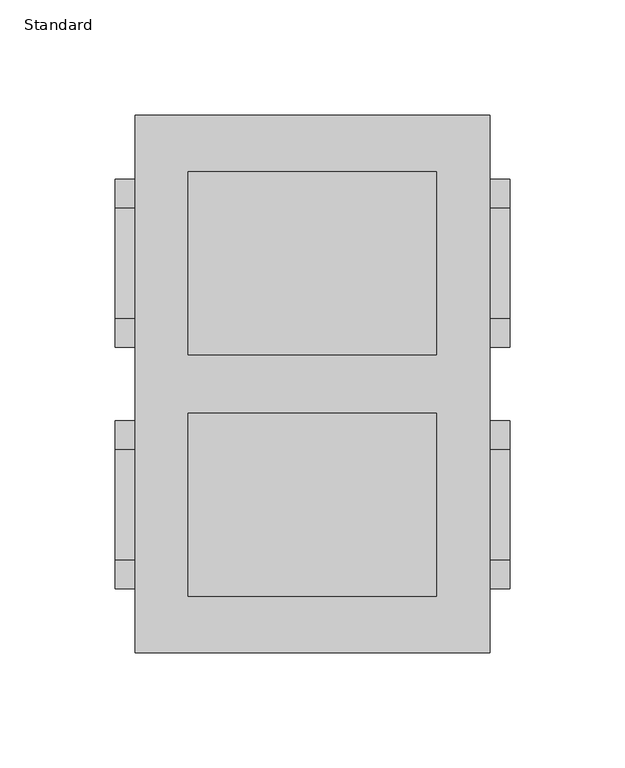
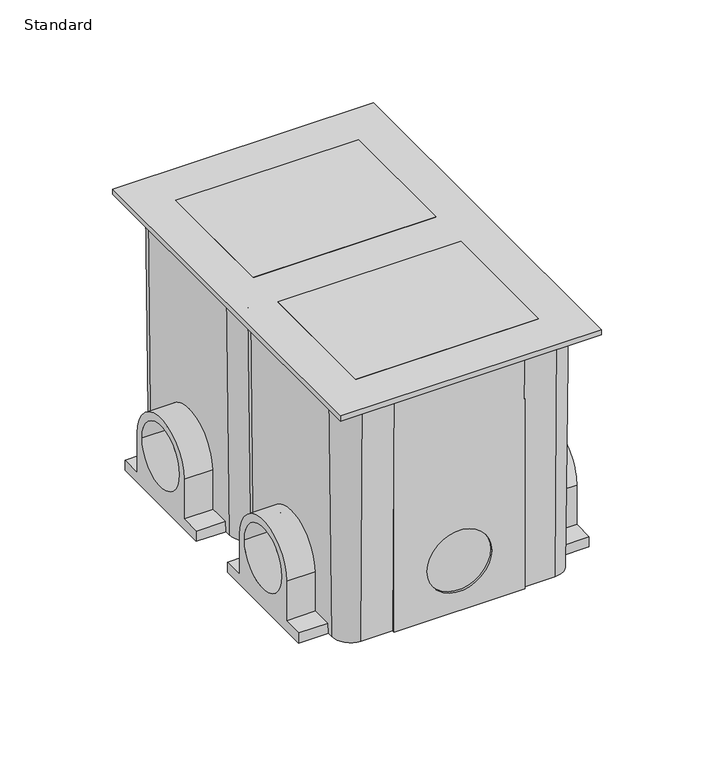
"""IFC4 building model written with IfcOpenShell, lengths in millimetres: proxy geometry, Floor_Box-Modulink-Wiremold-880_Nonmetallic-2_Gang : Standard."""

import ifcopenshell
import ifcopenshell.guid

model = None  # the IFC model being written
_history = None  # IfcOwnerHistory: only IFC2X3 demands one
_inside = {}  # id of a spatial element -> (the spatial element, [elements in it])
_under = {}  # id of a project, library or spatial element -> (it, [spatial elements below it])
_declared = {}  # id of a project -> (the project, [libraries it declares])
_typed = {}  # id of a type object -> (the type object, [elements of that type])
_made_of = {}  # id of a material, layer set ... -> (it, [elements and type objects made of it])


def new_model(schema):
    """Start an empty IFC model of exactly this schema.

    Asked for "IFC4X3", IfcOpenShell would pick the latest addendum, in which some entities
    have other attributes; the version numbers below select the first issue.
    IFC2X3 requires an IfcOwnerHistory on every rooted entity: one is made here for all.
    """
    global model, _history
    if schema == "IFC4X3":
        model = ifcopenshell.file(schema_version=(4, 3, 0, 0))
    else:
        model = ifcopenshell.file(schema=schema)
    _inside.clear()
    _under.clear()
    _declared.clear()
    _typed.clear()
    _made_of.clear()
    _history = None
    if model.schema == "IFC2X3":
        org = make("IfcOrganization", Name="unknown")
        user = make(
            "IfcPersonAndOrganization",
            ThePerson=make("IfcPerson", FamilyName="unknown"),
            TheOrganization=org,
        )
        app = make(
            "IfcApplication",
            ApplicationDeveloper=org,
            Version="unknown",
            ApplicationFullName="unknown",
            ApplicationIdentifier="unknown",
        )
        _history = make(
            "IfcOwnerHistory",
            OwningUser=user,
            OwningApplication=app,
            ChangeAction="ADDED",
            CreationDate=0,
        )
    return model


def make(cls, **values):
    """One entity of the class cls with the attributes given. An attribute that is None is left unset."""
    return model.create_entity(
        cls, **{name: value for name, value in values.items() if value is not None}
    )


def rooted(cls, **values):
    """An entity with a GlobalId (a new one), such as an element, a storey or a relation."""
    return make(cls, GlobalId=ifcopenshell.guid.new(), OwnerHistory=_history, **values)


def si_unit(unit_type, name, prefix=None):
    """IfcSIUnit, for example si_unit("LENGTHUNIT", "METRE", prefix="MILLI")."""
    return make("IfcSIUnit", UnitType=unit_type, Prefix=prefix, Name=name)


def assignment(units):
    """IfcUnitAssignment: the units of a project."""
    return None if units is None else make("IfcUnitAssignment", Units=units)


def point(xyz):
    """IfcCartesianPoint."""
    return None if xyz is None else make("IfcCartesianPoint", Coordinates=xyz)


def direction(xyz):
    """IfcDirection."""
    return None if xyz is None else make("IfcDirection", DirectionRatios=xyz)


def frame(location, z_axis=None, x_axis=None):
    """IfcAxis2Placement3D, a coordinate frame: its origin and axes. An axis left out is left unset."""
    return make(
        "IfcAxis2Placement3D",
        Location=point(location),
        Axis=direction(z_axis),
        RefDirection=direction(x_axis),
    )


def origin():
    """The frame at (0, 0, 0) with its axes left unset."""
    return frame((0.0, 0.0, 0.0))


def place(relative_to, where):
    """IfcLocalPlacement: puts the frame where relative to a parent placement (None: the world)."""
    return make(
        "IfcLocalPlacement", PlacementRelTo=relative_to, RelativePlacement=where
    )


def context(
    kind, dimensions, precision=None, world=None, true_north=None, identifier=None
):
    """IfcGeometricRepresentationContext, for example the 3D "Model" context."""
    return make(
        "IfcGeometricRepresentationContext",
        ContextIdentifier=identifier,
        ContextType=kind,
        CoordinateSpaceDimension=dimensions,
        Precision=precision,
        WorldCoordinateSystem=world,
        TrueNorth=true_north,
    )


def project(units=None, contexts=None):
    """IfcProject with its units and contexts."""
    return rooted(
        "IfcProject",
        Name="project",
        RepresentationContexts=contexts,
        UnitsInContext=assignment(units),
    )


def spatial(cls, under=None, at=None, **own):
    """A site, building, storey or space (cls), placed at a placement, below another one or the project."""
    s = rooted(cls, ObjectPlacement=at, **own)
    if under is not None:
        _under.setdefault(under.id(), (under, []))[1].append(s)
    return s


def polyline(points):
    """IfcPolyline through the points."""
    return make("IfcPolyline", Points=[point(p) for p in points])


def circle_curve(where, radius):
    """IfcCircle in the frame where."""
    return make("IfcCircle", Position=where, Radius=radius)


def ellipse_curve(where, semi_axis1, semi_axis2):
    """IfcEllipse in the frame where."""
    return make(
        "IfcEllipse", Position=where, SemiAxis1=semi_axis1, SemiAxis2=semi_axis2
    )


def outline(outer, holes=None, kind="AREA"):
    """IfcArbitraryClosedProfileDef: a profile drawn as a closed curve; with holes, ...WithVoids."""
    if holes is None:
        return make("IfcArbitraryClosedProfileDef", ProfileType=kind, OuterCurve=outer)
    return make(
        "IfcArbitraryProfileDefWithVoids",
        ProfileType=kind,
        OuterCurve=outer,
        InnerCurves=holes,
    )


def extrude(swept, where, along, depth):
    """IfcExtrudedAreaSolid: the profile swept, set in the frame where, extruded along a direction by depth."""
    return make(
        "IfcExtrudedAreaSolid",
        SweptArea=swept,
        Position=where,
        ExtrudedDirection=direction(along),
        Depth=depth,
    )


def shape(context_of_items, identifier, shape_type, items):
    """IfcShapeRepresentation: the items that make up one representation, for example the "Body"."""
    return make(
        "IfcShapeRepresentation",
        ContextOfItems=context_of_items,
        RepresentationIdentifier=identifier,
        RepresentationType=shape_type,
        Items=items,
    )


def source(mapping_origin, context_of_items, identifier, shape_type, items):
    """IfcRepresentationMap: a shape defined once, which mapped items show again and again."""
    return make(
        "IfcRepresentationMap",
        MappingOrigin=mapping_origin,
        MappedRepresentation=shape(context_of_items, identifier, shape_type, items),
    )


def transform(
    local_origin,
    x_axis=None,
    y_axis=None,
    z_axis=None,
    scale=None,
    scale2=None,
    scale3=None,
    uniform=True,
):
    """IfcCartesianTransformationOperator3D, or its non-uniform kind. x_axis, y_axis, z_axis: its Axis1, 2, 3."""
    if uniform:
        return make(
            "IfcCartesianTransformationOperator3D",
            Axis1=direction(x_axis),
            Axis2=direction(y_axis),
            LocalOrigin=point(local_origin),
            Scale=scale,
            Axis3=direction(z_axis),
        )
    return make(
        "IfcCartesianTransformationOperator3DnonUniform",
        Axis1=direction(x_axis),
        Axis2=direction(y_axis),
        LocalOrigin=point(local_origin),
        Scale=scale,
        Axis3=direction(z_axis),
        Scale2=scale2,
        Scale3=scale3,
    )


def mapped(mapping_source, mapping_target):
    """IfcMappedItem: shows the shape of a source again, moved by a transform."""
    return make(
        "IfcMappedItem", MappingSource=mapping_source, MappingTarget=mapping_target
    )


def made_of(thing, what):
    """Note that an element or type object is made of a material, layer set ...; save() writes the relation."""
    if what is not None:
        _made_of.setdefault(what.id(), (what, []))[1].append(thing)
    return thing


def element(
    cls,
    number,
    at=None,
    inside=None,
    cuts=None,
    type_object=None,
    material=None,
    context=None,
    identifier="Body",
    shape_type=None,
    held_by="IfcProductDefinitionShape",
    body=None,
    shapes=None,
    **own,
):
    """One element of the class cls, such as IfcWall. Its Tag is "e" and its number.

    at: its placement. inside: the storey or other place that contains it. cuts: it is an
    opening in that element (IfcRelVoidsElement). A single representation is given by context,
    identifier, shape_type and body (its items); several are given by shapes. held_by: the class
    of the entity that holds the representations. save() writes the other relations.
    """
    e = rooted(cls, Tag="e%d" % number, ObjectPlacement=at, **own)
    if body is not None:
        shapes = [shape(context, identifier, shape_type, body)]
    if shapes is not None:
        e.Representation = make(held_by, Representations=shapes)
    if inside is not None:
        _inside.setdefault(inside.id(), (inside, []))[1].append(e)
    if cuts is not None:
        rooted(
            "IfcRelVoidsElement", RelatingBuildingElement=cuts, RelatedOpeningElement=e
        )
    if type_object is not None:
        _typed.setdefault(type_object.id(), (type_object, []))[1].append(e)
    return made_of(e, material)


def aggregate(whole, parts):
    """IfcRelAggregates: a whole, such as a stair, and the parts it consists of."""
    return rooted("IfcRelAggregates", RelatingObject=whole, RelatedObjects=parts)


def save(model, path):
    """Write the relations noted so far, then the file.

    IfcRelAggregates (storeys below a building ...), IfcRelContainedInSpatialStructure (elements
    in a storey), IfcRelDefinesByType, IfcRelAssociatesMaterial and IfcRelDeclares: one each for
    every whole, place, type object, material and project.
    """
    for whole, parts in _under.values():
        aggregate(whole, parts)
    for where, things in _inside.values():
        rooted(
            "IfcRelContainedInSpatialStructure",
            RelatedElements=things,
            RelatingStructure=where,
        )
    for kind, things in _typed.values():
        rooted("IfcRelDefinesByType", RelatedObjects=things, RelatingType=kind)
    for what, things in _made_of.values():
        rooted("IfcRelAssociatesMaterial", RelatedObjects=things, RelatingMaterial=what)
    for by, libraries in _declared.values():
        rooted("IfcRelDeclares", RelatingContext=by, RelatedDefinitions=libraries)
    model.write(path)


def plane_surface(at):
    """IfcPlane: the flat surface through the origin of the frame at, square to its z axis."""
    return make("IfcPlane", Position=at)


def cylinder_surface(at, radius):
    """IfcCylindricalSurface: all points at the distance radius from the z axis of the frame at."""
    return make("IfcCylindricalSurface", Position=at, Radius=radius)


def revolved_surface(curve, axis_point, axis_direction):
    """IfcSurfaceOfRevolution: the curve turned about the line through axis_point along axis_direction."""
    return make(
        "IfcSurfaceOfRevolution",
        SweptCurve=make("IfcArbitraryOpenProfileDef", ProfileType="CURVE", Curve=curve),
        AxisPosition=make("IfcAxis1Placement", Location=point(axis_point), Axis=direction(axis_direction)),
    )


def advanced_brep(points, edges, surfaces, faces):
    """IfcAdvancedBrep: a solid bounded by faces that lie on surfaces and meet in shared edges.

    An edge is (start, end): straight between two places in points (the first is 0);
    or (start, end, curve); or (start, end, curve, False) where it runs against its curve.
    A face is (place in surfaces, loops), or (place, loops, False) where it looks against
    its surface's normal. A loop lists edges by number (the first is 1), with a minus sign
    where the edge is run from its end to its start. The first loop is the outer one.
    """
    corners = [point(p) for p in points]
    vertices = [make("IfcVertexPoint", VertexGeometry=c) for c in corners]
    made = []
    for start, end, *more in edges:
        made.append(
            make(
                "IfcEdgeCurve",
                EdgeStart=vertices[start],
                EdgeEnd=vertices[end],
                EdgeGeometry=more[0] if more else make("IfcPolyline", Points=[corners[start], corners[end]]),
                SameSense=more[1] if len(more) > 1 else True,
            )
        )
    hull = []
    for where, loops, *sense in faces:
        bounds = []
        for j, loop in enumerate(loops):
            ring = [make("IfcOrientedEdge", EdgeElement=made[abs(k) - 1], Orientation=k > 0) for k in loop]
            bounds.append(
                make(
                    "IfcFaceOuterBound" if j == 0 else "IfcFaceBound",
                    Bound=make("IfcEdgeLoop", EdgeList=ring),
                    Orientation=True,
                )
            )
        hull.append(make("IfcAdvancedFace", Bounds=bounds, FaceSurface=surfaces[where], SameSense=sense[0] if sense else True))
    return make("IfcAdvancedBrep", Outer=make("IfcClosedShell", CfsFaces=hull))


def standard_40654299(model_context):
    return source(origin(), model_context, "Body", "SolidModel", [
        extrude(outline(polyline([(53.975, -12.7127), (53.975, -92.0877), (-53.975, -92.0877), (-53.975, -12.7127), (53.975, -12.7127)])), frame((0.0, 0.0, -12.7), z_axis=(0.0, 0.0, 1.0), x_axis=(1.0, 0.0, 0.0)), (0.0, 0.0, 1.0), 12.7),
        extrude(outline(polyline([(53.975, 92.0877), (53.975, 12.7127), (-53.975, 12.7127), (-53.975, 92.0877), (53.975, 92.0877)])), frame((0.0, 0.0, -12.7), z_axis=(0.0, 0.0, 1.0), x_axis=(1.0, 0.0, 0.0)), (0.0, 0.0, 1.0), 12.7),
        extrude(outline(polyline([(-77.0001, 116.6876), (77.0001, 116.6876), (77.0001, -116.6876), (-77.0001, -116.6876), (-77.0001, 116.6876)]), holes=[polyline([(-53.975, 92.0877), (-53.975, 12.7127), (53.975, 12.7127), (53.975, 92.0877), (-53.975, 92.0877)]), polyline([(-53.975, -12.7127), (-53.975, -92.0877), (53.975, -92.0877), (53.975, -12.7127), (-53.975, -12.7127)])]), frame((0.0, 0.0, -3.175), z_axis=(0.0, 0.0, 1.0), x_axis=(1.0, 0.0, 0.0)), (0.0, 0.0, 1.0), 3.175),
        advanced_brep(
        [(-57.15, 0.0, -3.175), (-69.85, -12.7, -3.175), (-69.85, -92.075, -3.175), (-57.15, -104.775, -3.175), (-38.608, -104.775, -3.175), (38.608, -104.775, -3.175), (57.15, -104.775, -3.175), (69.85, -92.075, -3.175), (69.85, -12.7, -3.175), (57.15, 0.0, -3.175), (38.608, 0.0, -3.175), (-38.608, 0.0, -3.175), (57.15, -1.5875, -155.575), (68.2625, -12.7, -155.575), (68.2625, -15.875, -155.575), (85.725, -15.875, -155.575), (85.725, -88.9, -155.575), (68.2625, -88.9, -155.575), (68.2625, -92.075, -155.575), (57.15, -103.1875, -155.575), (38.608, -103.1875, -155.575), (38.608, -104.775, -155.575), (-38.608, -104.775, -155.575), (-38.608, -103.1875, -155.575), (-57.15, -103.1875, -155.575), (-68.2625, -92.075, -155.575), (-68.2625, -88.9, -155.575), (-85.725, -88.9, -155.575), (-85.725, -15.875, -155.575), (-68.2625, -15.875, -155.575), (-68.2625, -12.7, -155.575), (-57.15, -1.5875, -155.575), (-38.608, -1.5875, -155.575), (-38.608, 0.0, -155.575), (38.608, 0.0, -155.575), (38.608, -1.5875, -155.575), (19.05, -1.2649729, -124.6124), (-19.05, -1.2649729, -124.6124), (-68.3286458, -15.875, -149.225), (-68.3286458, -28.575, -149.225), (-68.5850271, -28.575, -124.6124), (-68.5850271, -76.2, -124.6124), (-68.3286458, -76.2, -149.225), (-68.3286458, -88.9, -149.225), (-68.5850271, -71.4375, -124.6124), (-68.5850271, -33.3375, -124.6124), (-19.05, -103.5100271, -124.6124), (19.05, -103.5100271, -124.6124), (68.3286458, -88.9, -149.225), (68.3286458, -76.2, -149.225), (68.5850271, -76.2, -124.6124), (68.5850271, -28.575, -124.6124), (68.3286458, -28.575, -149.225), (68.3286458, -15.875, -149.225), (68.5850271, -33.3375, -124.6124), (68.5850271, -71.4375, -124.6124), (-19.05, -104.775, -124.6124), (19.05, -104.775, -124.6124), (-19.05, 0.0, -124.6124), (19.05, 0.0, -124.6124), (85.725, -76.2, -124.6124), (85.725, -76.2, -149.225), (85.725, -88.9, -149.225), (85.725, -15.875, -149.225), (85.725, -28.575, -149.225), (85.725, -28.575, -124.6124), (85.725, -71.4375, -124.6124), (85.725, -33.3375, -124.6124), (-85.725, -76.2, -124.6124), (-85.725, -28.575, -124.6124), (-85.725, -28.575, -149.225), (-85.725, -15.875, -149.225), (-85.725, -88.9, -149.225), (-85.725, -76.2, -149.225), (-85.725, -71.4375, -124.6124), (-85.725, -33.3375, -124.6124)],
        [
            (0, 1, circle_curve(frame((-57.15, -12.7, -3.175), z_axis=(0.0, 0.0, 1.0), x_axis=(0.0, 1.0, 0.0)), 12.7)),
            (1, 2),
            (2, 3, circle_curve(frame((-57.15, -92.075, -3.175), z_axis=(0.0, 0.0, 1.0), x_axis=(-1.0, 0.0, 0.0)), 12.7)),
            (3, 4),
            (4, 5),
            (5, 6),
            (6, 7, circle_curve(frame((57.15, -92.075, -3.175), z_axis=(0.0, 0.0, 1.0), x_axis=(0.0, -1.0, 0.0)), 12.7)),
            (7, 8),
            (8, 9, circle_curve(frame((57.15, -12.7, -3.175), z_axis=(0.0, 0.0, 1.0), x_axis=(1.0, 0.0, 0.0)), 12.7)),
            (9, 10),
            (10, 11),
            (11, 0),
            (12, 13, circle_curve(frame((57.15, -12.7, -155.575), z_axis=(0.0, 0.0, -1.0), x_axis=(1.0, 0.0, 0.0)), 11.1125)),
            (13, 14),
            (14, 15),
            (15, 16),
            (16, 17),
            (17, 18),
            (18, 19, circle_curve(frame((57.15, -92.075, -155.575), z_axis=(0.0, 0.0, -1.0), x_axis=(0.0, -1.0, 0.0)), 11.1125)),
            (19, 20),
            (20, 21),
            (21, 22),
            (22, 23),
            (23, 24),
            (24, 25, circle_curve(frame((-57.15, -92.075, -155.575), z_axis=(0.0, 0.0, -1.0), x_axis=(-1.0, 0.0, 0.0)), 11.1125)),
            (25, 26),
            (26, 27),
            (27, 28),
            (28, 29),
            (29, 30),
            (30, 31, circle_curve(frame((-57.15, -12.7, -155.575), z_axis=(0.0, 0.0, -1.0), x_axis=(0.0, 1.0, 0.0)), 11.1125)),
            (31, 32),
            (32, 33),
            (33, 34),
            (34, 35),
            (35, 12),
            (31, 0),
            (11, 32),
            (9, 12),
            (35, 10),
            (36, 37, ellipse_curve(frame((0.0, -1.2649729, -124.6124), z_axis=(0.0, 0.999945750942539, -0.010416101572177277), x_axis=(0.0, 0.010416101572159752, 0.9999457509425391)), 19.0510335, 19.05)),
            (37, 36, ellipse_curve(frame((0.0, -1.2649729, -124.6124), z_axis=(0.0, 0.999945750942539, -0.010416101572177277), x_axis=(0.0, 0.010416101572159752, 0.9999457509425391)), 19.0510335, 19.05)),
            (1, 30),
            (29, 38),
            (38, 39),
            (39, 40),
            (40, 41, ellipse_curve(frame((-68.5850271, -52.3875, -124.6124), z_axis=(0.999945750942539, 0.0, 0.010416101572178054), x_axis=(0.010416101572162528, 0.0, -0.999945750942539)), 23.8137919, 23.8125)),
            (41, 42),
            (42, 43),
            (43, 26),
            (25, 2),
            (44, 45, ellipse_curve(frame((-68.5850271, -52.3875, -124.6124), z_axis=(-0.999945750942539, 0.0, -0.010416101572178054), x_axis=(-0.010416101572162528, 0.0, 0.999945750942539)), 19.0510335, 19.05)),
            (45, 44, ellipse_curve(frame((-68.5850271, -52.3875, -124.6124), z_axis=(-0.999945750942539, 0.0, -0.010416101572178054), x_axis=(-0.010416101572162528, 0.0, 0.999945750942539)), 19.0510335, 19.05)),
            (19, 6),
            (5, 20),
            (46, 47, ellipse_curve(frame((0.0, -103.5100271, -124.6124), z_axis=(0.0, -0.9999457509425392, -0.010416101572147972), x_axis=(0.0, 0.010416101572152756, -0.9999457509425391)), 19.0510335, 19.05)),
            (47, 46, ellipse_curve(frame((0.0, -103.5100271, -124.6124), z_axis=(0.0, -0.9999457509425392, -0.010416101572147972), x_axis=(0.0, 0.010416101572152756, -0.9999457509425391)), 19.0510335, 19.05)),
            (3, 24),
            (23, 4),
            (7, 18),
            (17, 48),
            (48, 49),
            (49, 50),
            (50, 51, ellipse_curve(frame((68.5850271, -52.3875, -124.6124), z_axis=(-0.9999457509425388, 0.0, 0.010416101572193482), x_axis=(0.010416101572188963, 0.0, 0.9999457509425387)), 23.8137919, 23.8125)),
            (51, 52),
            (52, 53),
            (53, 14),
            (13, 8),
            (54, 55, ellipse_curve(frame((68.5850271, -52.3875, -124.6124), z_axis=(0.9999457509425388, 0.0, -0.010416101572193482), x_axis=(-0.010416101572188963, 0.0, -0.9999457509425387)), 19.0510335, 19.05)),
            (55, 54, ellipse_curve(frame((68.5850271, -52.3875, -124.6124), z_axis=(0.9999457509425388, 0.0, -0.010416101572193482), x_axis=(-0.010416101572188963, 0.0, -0.9999457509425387)), 19.0510335, 19.05)),
            (4, 22),
            (21, 5),
            (56, 57, circle_curve(frame((0.0, -104.775, -124.6124), z_axis=(0.0, 1.0, 0.0), x_axis=(1.0, 0.0, 0.0)), 19.05)),
            (57, 56, circle_curve(frame((0.0, -104.775, -124.6124), z_axis=(0.0, 1.0, 0.0), x_axis=(1.0, 0.0, 0.0)), 19.05)),
            (57, 47),
            (46, 56),
            (10, 34),
            (33, 11),
            (58, 59, circle_curve(frame((0.0, 0.0, -124.6124), z_axis=(0.0, -1.0, 0.0), x_axis=(1.0, 0.0, 0.0)), 19.05)),
            (59, 58, circle_curve(frame((0.0, 0.0, -124.6124), z_axis=(0.0, -1.0, 0.0), x_axis=(1.0, 0.0, 0.0)), 19.05)),
            (58, 37),
            (36, 59),
            (60, 61),
            (61, 62),
            (62, 16),
            (15, 63),
            (63, 64),
            (64, 65),
            (65, 60, circle_curve(frame((85.725, -52.3875, -124.6124), z_axis=(1.0, 0.0, 0.0), x_axis=(0.0, 1.0, 0.0)), 23.8125)),
            (66, 67, circle_curve(frame((85.725, -52.3875, -124.6124), z_axis=(-1.0, 0.0, 0.0), x_axis=(0.0, 1.0, 0.0)), 19.05)),
            (67, 66, circle_curve(frame((85.725, -52.3875, -124.6124), z_axis=(-1.0, 0.0, 0.0), x_axis=(0.0, 1.0, 0.0)), 19.05)),
            (60, 50),
            (49, 61),
            (48, 62),
            (53, 63),
            (52, 64),
            (51, 65),
            (66, 55),
            (54, 67),
            (68, 69, circle_curve(frame((-85.725, -52.3875, -124.6124), z_axis=(-1.0, 0.0, 0.0), x_axis=(0.0, 1.0, 0.0)), 23.8125)),
            (69, 70),
            (70, 71),
            (71, 28),
            (27, 72),
            (72, 73),
            (73, 68),
            (74, 75, circle_curve(frame((-85.725, -52.3875, -124.6124), z_axis=(1.0, 0.0, 0.0), x_axis=(0.0, 1.0, 0.0)), 19.05)),
            (75, 74, circle_curve(frame((-85.725, -52.3875, -124.6124), z_axis=(1.0, 0.0, 0.0), x_axis=(0.0, 1.0, 0.0)), 19.05)),
            (73, 42),
            (41, 68),
            (72, 43),
            (71, 38),
            (70, 39),
            (69, 40),
            (75, 45),
            (44, 74),
        ],
        [
            plane_surface(frame((0.0, -52.3875, -3.175), z_axis=(0.0, 0.0, 1.0), x_axis=(-1.0, 0.0, 0.0))),
            plane_surface(frame((0.0, -52.3875, -155.575), z_axis=(0.0, 0.0, -1.0), x_axis=(-1.0, 0.0, 0.0))),
            plane_surface(frame((0.0, -1.5875, -155.575), z_axis=(0.0, 0.999945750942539, -0.010416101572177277), x_axis=(-1.0, 0.0, 0.0))),
            plane_surface(frame((-68.2625, -52.3875, -155.575), z_axis=(-0.999945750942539, 0.0, -0.010416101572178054), x_axis=(0.0, -1.0, 0.0))),
            plane_surface(frame((0.0, -103.1875, -155.575), z_axis=(0.0, -0.9999457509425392, -0.010416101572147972), x_axis=(1.0, 0.0, 0.0))),
            plane_surface(frame((68.2625, -52.3875, -155.575), z_axis=(0.9999457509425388, 0.0, -0.010416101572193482), x_axis=(0.0, 1.0, 0.0))),
            revolved_surface(polyline([(-68.26249999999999, -12.7, -155.57500000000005), (-69.85, -12.7, -3.1749999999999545)]), (-57.15, -12.7, -1222.375), (0.0, 0.0, 1.0)),
            revolved_surface(polyline([(-57.15, -103.1875, -155.57500000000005), (-57.15, -104.775, -3.1749999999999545)]), (-57.15, -92.075, -1222.375), (0.0, 0.0, 1.0)),
            revolved_surface(polyline([(68.26249999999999, -92.075, -155.57500000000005), (69.85, -92.075, -3.1749999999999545)]), (57.15, -92.075, -1222.375), (0.0, 0.0, 1.0)),
            revolved_surface(polyline([(57.15, -1.5875000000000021, -155.57500000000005), (57.15, 0.0, -3.1749999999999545)]), (57.15, -12.7, -1222.375), (0.0, 0.0, 1.0)),
            plane_surface(frame((19.05, -104.775, -124.6124), z_axis=(0.0, -1.0, 0.0), x_axis=(0.0, 0.0, -1.0))),
            revolved_surface(polyline([(19.05, -103.31158960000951, -124.6124), (19.05, -104.775, -124.6124)]), (0.0, -103.1875, -124.6124), (0.0, 1.0, 0.0)),
            plane_surface(frame((-38.608, -104.775, -3.175), z_axis=(-1.0, 0.0, 0.0), x_axis=(0.0, 1.0, 0.0))),
            plane_surface(frame((38.608, -104.775, -155.575), z_axis=(1.0, 0.0, 0.0), x_axis=(0.0, 1.0, 0.0))),
            plane_surface(frame((19.05, 0.0, -124.6124), z_axis=(0.0, 1.0, 0.0), x_axis=(0.0, 0.0, 1.0))),
            revolved_surface(polyline([(19.05, 0.0, -124.6124), (19.05, -1.463410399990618, -124.6124)]), (0.0, 0.0, -124.6124), (0.0, 1.0, 0.0)),
            plane_surface(frame((-38.608, -1.5875, -3.175), z_axis=(-1.0, 0.0, 0.0), x_axis=(0.0, 1.0, 0.0))),
            plane_surface(frame((38.608, -1.5875, -155.575), z_axis=(1.0, 0.0, 0.0), x_axis=(0.0, 1.0, 0.0))),
            plane_surface(frame((85.725, -76.2, -149.225), z_axis=(1.0, 0.0, 0.0), x_axis=(0.0, 1.0449157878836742e-12, -1.0))),
            plane_surface(frame((85.725, -76.2, -124.6124), z_axis=(0.0, -1.0, -1.0449157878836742e-12), x_axis=(-1.0, 0.0, 0.0))),
            plane_surface(frame((85.725, -76.2, -149.225), z_axis=(0.0, 0.0, 1.0), x_axis=(-1.0, 0.0, 0.0))),
            plane_surface(frame((85.725, -88.9, -149.225), z_axis=(0.0, -1.0, 0.0), x_axis=(-1.0, 0.0, 0.0))),
            plane_surface(frame((85.725, -15.875, -155.575), z_axis=(0.0, 1.0, 0.0), x_axis=(-1.0, 0.0, 0.0))),
            plane_surface(frame((85.725, -15.875, -149.225), z_axis=(0.0, 0.0, 1.0), x_axis=(-1.0, 0.0, 0.0))),
            plane_surface(frame((85.725, -28.575, -149.225), z_axis=(0.0, 1.0, 0.0), x_axis=(-1.0, 0.0, 0.0))),
            cylinder_surface(frame((57.15, -52.3875, -124.6124), z_axis=(1.0, 0.0, 0.0), x_axis=(0.0, 1.0, 0.0)), 23.8125),
            revolved_surface(polyline([(68.38658960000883, -33.337500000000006, -124.6124), (85.725, -33.337500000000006, -124.6124)]), (0.0, -52.3875, -124.6124), (-1.0, 0.0, 0.0)),
            plane_surface(frame((-85.725, -76.2, -149.225), z_axis=(-1.0, 0.0, 0.0), x_axis=(0.0, -1.0449157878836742e-12, 1.0))),
            plane_surface(frame((-57.15, -76.2, -124.6124), z_axis=(0.0, -1.0, -1.0449157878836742e-12), x_axis=(-1.0, 0.0, 0.0))),
            plane_surface(frame((-57.15, -76.2, -149.225), z_axis=(0.0, 0.0, 1.0), x_axis=(-1.0, 0.0, 0.0))),
            plane_surface(frame((-57.15, -88.9, -149.225), z_axis=(0.0, -1.0, 0.0), x_axis=(-1.0, 0.0, 0.0))),
            plane_surface(frame((-57.15, -15.875, -155.575), z_axis=(0.0, 1.0, 0.0), x_axis=(-1.0, 0.0, 0.0))),
            plane_surface(frame((-57.15, -15.875, -149.225), z_axis=(0.0, 0.0, 1.0), x_axis=(-1.0, 0.0, 0.0))),
            plane_surface(frame((-57.15, -28.575, -149.225), z_axis=(0.0, 1.0, 0.0), x_axis=(-1.0, 0.0, 0.0))),
            cylinder_surface(frame((-85.725, -52.3875, -124.6124), z_axis=(1.0, 0.0, 0.0), x_axis=(0.0, 1.0, 0.0)), 23.8125),
            revolved_surface(polyline([(-85.725, -33.337500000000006, -124.6124), (-68.38658960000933, -33.337500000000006, -124.6124)]), (0.0, -52.3875, -124.6124), (-1.0, 0.0, 0.0)),
        ],
        [
            (0, [[1, 2, 3, 4, 5, 6, 7, 8, 9, 10, 11, 12]]),
            (1, [[13, 14, 15, 16, 17, 18, 19, 20, 21, 22, 23, 24, 25, 26, 27, 28, 29, 30, 31, 32, 33, 34, 35, 36]]),
            (2, [[37, -12, 38, -32]]),
            (2, [[39, -36, 40, -10]]),
            (2, [[41, 42]]),
            (3, [[-2, 43, -30, 44, 45, 46, 47, 48, 49, 50, -26, 51]]),
            (3, [[52, 53]]),
            (4, [[54, -6, 55, -20]]),
            (4, [[56, 57]]),
            (4, [[58, -24, 59, -4]]),
            (5, [[-8, 60, -18, 61, 62, 63, 64, 65, 66, 67, -14, 68]]),
            (5, [[69, 70]]),
            (6, [[-1, -37, -31, -43]]),
            (7, [[-3, -51, -25, -58]]),
            (8, [[-7, -54, -19, -60]]),
            (9, [[-9, -68, -13, -39]]),
            (10, [[71, -22, 72, -5], [73, 74]]),
            (11, [[-74, 75, -56, 76]]),
            (11, [[-73, -76, -57, -75]]),
            (12, [[-71, -59, -23]]),
            (13, [[-72, -21, -55]]),
            (14, [[77, -34, 78, -11], [79, 80]]),
            (15, [[-79, 81, -41, 82]]),
            (15, [[-80, -82, -42, -81]]),
            (16, [[-78, -33, -38]]),
            (17, [[-77, -40, -35]]),
            (18, [[83, 84, 85, -16, 86, 87, 88, 89], [90, 91]]),
            (19, [[-83, 92, -63, 93]]),
            (20, [[-84, -93, -62, 94]]),
            (21, [[-85, -94, -61, -17]]),
            (22, [[-86, -15, -67, 95]]),
            (23, [[-87, -95, -66, 96]]),
            (24, [[-88, -96, -65, 97]]),
            (25, [[-89, -97, -64, -92]]),
            (26, [[-90, 98, -69, 99]]),
            (26, [[-91, -99, -70, -98]]),
            (27, [[100, 101, 102, 103, -28, 104, 105, 106], [107, 108]]),
            (28, [[-106, 109, -48, 110]]),
            (29, [[-105, 111, -49, -109]]),
            (30, [[-104, -27, -50, -111]]),
            (31, [[-103, 112, -44, -29]]),
            (32, [[-102, 113, -45, -112]]),
            (33, [[-101, 114, -46, -113]]),
            (34, [[-100, -110, -47, -114]]),
            (35, [[-108, 115, -52, 116]]),
            (35, [[-107, -116, -53, -115]]),
        ],
    ),
        advanced_brep(
        [(-57.15, 104.775, -3.175), (-69.85, 92.075, -3.175), (-69.85, 12.7, -3.175), (-57.15, 0.0, -3.175), (-38.608, 0.0, -3.175), (38.608, 0.0, -3.175), (57.15, 0.0, -3.175), (69.85, 12.7, -3.175), (69.85, 92.075, -3.175), (57.15, 104.775, -3.175), (38.608, 104.775, -3.175), (-38.608, 104.775, -3.175), (57.15, 103.1875, -155.575), (68.2625, 92.075, -155.575), (68.2625, 88.9, -155.575), (85.725, 88.9, -155.575), (85.725, 15.875, -155.575), (68.2625, 15.875, -155.575), (68.2625, 12.7, -155.575), (57.15, 1.5875, -155.575), (38.608, 1.5875, -155.575), (38.608, 0.0, -155.575), (-38.608, 0.0, -155.575), (-38.608, 1.5875, -155.575), (-57.15, 1.5875, -155.575), (-68.2625, 12.7, -155.575), (-68.2625, 15.875, -155.575), (-85.725, 15.875, -155.575), (-85.725, 88.9, -155.575), (-68.2625, 88.9, -155.575), (-68.2625, 92.075, -155.575), (-57.15, 103.1875, -155.575), (-38.608, 103.1875, -155.575), (-38.608, 104.775, -155.575), (38.608, 104.775, -155.575), (38.608, 103.1875, -155.575), (19.05, 103.5100271, -124.6124), (-19.05, 103.5100271, -124.6124), (-68.3286458, 88.9, -149.225), (-68.3286458, 76.2, -149.225), (-68.5850271, 76.2, -124.6124), (-68.5850271, 28.575, -124.6124), (-68.3286458, 28.575, -149.225), (-68.3286458, 15.875, -149.225), (-68.5850271, 33.3375, -124.6124), (-68.5850271, 71.4375, -124.6124), (-19.05, 1.2649729, -124.6124), (19.05, 1.2649729, -124.6124), (68.3286458, 15.875, -149.225), (68.3286458, 28.575, -149.225), (68.5850271, 28.575, -124.6124), (68.5850271, 76.2, -124.6124), (68.3286458, 76.2, -149.225), (68.3286458, 88.9, -149.225), (68.5850271, 71.4375, -124.6124), (68.5850271, 33.3375, -124.6124), (-19.05, 0.0, -124.6124), (19.05, 0.0, -124.6124), (-19.05, 104.775, -124.6124), (19.05, 104.775, -124.6124), (85.725, 28.575, -124.6124), (85.725, 28.575, -149.225), (85.725, 15.875, -149.225), (85.725, 88.9, -149.225), (85.725, 76.2, -149.225), (85.725, 76.2, -124.6124), (85.725, 33.3375, -124.6124), (85.725, 71.4375, -124.6124), (-85.725, 28.575, -124.6124), (-85.725, 76.2, -124.6124), (-85.725, 76.2, -149.225), (-85.725, 88.9, -149.225), (-85.725, 15.875, -149.225), (-85.725, 28.575, -149.225), (-85.725, 33.3375, -124.6124), (-85.725, 71.4375, -124.6124)],
        [
            (0, 1, circle_curve(frame((-57.15, 92.075, -3.175), z_axis=(0.0, 0.0, 1.0), x_axis=(0.0, 1.0, 0.0)), 12.7)),
            (1, 2),
            (2, 3, circle_curve(frame((-57.15, 12.7, -3.175), z_axis=(0.0, 0.0, 1.0), x_axis=(-1.0, 0.0, 0.0)), 12.7)),
            (3, 4),
            (4, 5),
            (5, 6),
            (6, 7, circle_curve(frame((57.15, 12.7, -3.175), z_axis=(0.0, 0.0, 1.0), x_axis=(0.0, -1.0, 0.0)), 12.7)),
            (7, 8),
            (8, 9, circle_curve(frame((57.15, 92.075, -3.175), z_axis=(0.0, 0.0, 1.0), x_axis=(1.0, 0.0, 0.0)), 12.7)),
            (9, 10),
            (10, 11),
            (11, 0),
            (12, 13, circle_curve(frame((57.15, 92.075, -155.575), z_axis=(0.0, 0.0, -1.0), x_axis=(1.0, 0.0, 0.0)), 11.1125)),
            (13, 14),
            (14, 15),
            (15, 16),
            (16, 17),
            (17, 18),
            (18, 19, circle_curve(frame((57.15, 12.7, -155.575), z_axis=(0.0, 0.0, -1.0), x_axis=(0.0, -1.0, 0.0)), 11.1125)),
            (19, 20),
            (20, 21),
            (21, 22),
            (22, 23),
            (23, 24),
            (24, 25, circle_curve(frame((-57.15, 12.7, -155.575), z_axis=(0.0, 0.0, -1.0), x_axis=(-1.0, 0.0, 0.0)), 11.1125)),
            (25, 26),
            (26, 27),
            (27, 28),
            (28, 29),
            (29, 30),
            (30, 31, circle_curve(frame((-57.15, 92.075, -155.575), z_axis=(0.0, 0.0, -1.0), x_axis=(0.0, 1.0, 0.0)), 11.1125)),
            (31, 32),
            (32, 33),
            (33, 34),
            (34, 35),
            (35, 12),
            (31, 0),
            (11, 32),
            (9, 12),
            (35, 10),
            (36, 37, ellipse_curve(frame((0.0, 103.5100271, -124.6124), z_axis=(0.0, 0.9999457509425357, -0.01041610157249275), x_axis=(0.0, 0.010416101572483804, 0.9999457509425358)), 19.0510335, 19.05)),
            (37, 36, ellipse_curve(frame((0.0, 103.5100271, -124.6124), z_axis=(0.0, 0.9999457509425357, -0.01041610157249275), x_axis=(0.0, 0.010416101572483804, 0.9999457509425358)), 19.0510335, 19.05)),
            (1, 30),
            (29, 38),
            (38, 39),
            (39, 40),
            (40, 41, ellipse_curve(frame((-68.5850271, 52.3875, -124.6124), z_axis=(0.9999457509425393, 0.0, 0.010416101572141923), x_axis=(0.010416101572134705, 0.0, -0.9999457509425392)), 23.8137919, 23.8125)),
            (41, 42),
            (42, 43),
            (43, 26),
            (25, 2),
            (44, 45, ellipse_curve(frame((-68.5850271, 52.3875, -124.6124), z_axis=(-0.9999457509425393, 0.0, -0.010416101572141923), x_axis=(-0.010416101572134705, 0.0, 0.9999457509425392)), 19.0510335, 19.05)),
            (45, 44, ellipse_curve(frame((-68.5850271, 52.3875, -124.6124), z_axis=(-0.9999457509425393, 0.0, -0.010416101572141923), x_axis=(-0.010416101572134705, 0.0, 0.9999457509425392)), 19.0510335, 19.05)),
            (19, 6),
            (5, 20),
            (46, 47, ellipse_curve(frame((0.0, 1.2649729, -124.6124), z_axis=(0.0, -0.9999457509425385, -0.010416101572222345), x_axis=(0.0, 0.010416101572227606, -0.9999457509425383)), 19.0510335, 19.05)),
            (47, 46, ellipse_curve(frame((0.0, 1.2649729, -124.6124), z_axis=(0.0, -0.9999457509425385, -0.010416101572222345), x_axis=(0.0, 0.010416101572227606, -0.9999457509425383)), 19.0510335, 19.05)),
            (3, 24),
            (23, 4),
            (7, 18),
            (17, 48),
            (48, 49),
            (49, 50),
            (50, 51, ellipse_curve(frame((68.5850271, 52.3875, -124.6124), z_axis=(-0.9999457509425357, 0.0, 0.010416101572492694), x_axis=(0.010416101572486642, 0.0, 0.9999457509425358)), 23.8137919, 23.8125)),
            (51, 52),
            (52, 53),
            (53, 14),
            (13, 8),
            (54, 55, ellipse_curve(frame((68.5850271, 52.3875, -124.6124), z_axis=(0.9999457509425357, 0.0, -0.010416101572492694), x_axis=(-0.010416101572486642, 0.0, -0.9999457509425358)), 19.0510335, 19.05)),
            (55, 54, ellipse_curve(frame((68.5850271, 52.3875, -124.6124), z_axis=(0.9999457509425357, 0.0, -0.010416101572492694), x_axis=(-0.010416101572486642, 0.0, -0.9999457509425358)), 19.0510335, 19.05)),
            (4, 22),
            (21, 5),
            (56, 57, circle_curve(frame((0.0, 0.0, -124.6124), z_axis=(0.0, 1.0, 0.0), x_axis=(1.0, 0.0, 0.0)), 19.05)),
            (57, 56, circle_curve(frame((0.0, 0.0, -124.6124), z_axis=(0.0, 1.0, 0.0), x_axis=(1.0, 0.0, 0.0)), 19.05)),
            (57, 47),
            (46, 56),
            (10, 34),
            (33, 11),
            (58, 59, circle_curve(frame((0.0, 104.775, -124.6124), z_axis=(0.0, -1.0, 0.0), x_axis=(1.0, 0.0, 0.0)), 19.05)),
            (59, 58, circle_curve(frame((0.0, 104.775, -124.6124), z_axis=(0.0, -1.0, 0.0), x_axis=(1.0, 0.0, 0.0)), 19.05)),
            (58, 37),
            (36, 59),
            (60, 61),
            (61, 62),
            (62, 16),
            (15, 63),
            (63, 64),
            (64, 65),
            (65, 60, circle_curve(frame((85.725, 52.3875, -124.6124), z_axis=(1.0, 0.0, 0.0), x_axis=(0.0, 1.0, 0.0)), 23.8125)),
            (66, 67, circle_curve(frame((85.725, 52.3875, -124.6124), z_axis=(-1.0, 0.0, 0.0), x_axis=(0.0, 1.0, 0.0)), 19.05)),
            (67, 66, circle_curve(frame((85.725, 52.3875, -124.6124), z_axis=(-1.0, 0.0, 0.0), x_axis=(0.0, 1.0, 0.0)), 19.05)),
            (60, 50),
            (49, 61),
            (48, 62),
            (53, 63),
            (52, 64),
            (51, 65),
            (66, 55),
            (54, 67),
            (68, 69, circle_curve(frame((-85.725, 52.3875, -124.6124), z_axis=(-1.0, 0.0, 0.0), x_axis=(0.0, 1.0, 0.0)), 23.8125)),
            (69, 70),
            (70, 71),
            (71, 28),
            (27, 72),
            (72, 73),
            (73, 68),
            (74, 75, circle_curve(frame((-85.725, 52.3875, -124.6124), z_axis=(1.0, 0.0, 0.0), x_axis=(0.0, 1.0, 0.0)), 19.05)),
            (75, 74, circle_curve(frame((-85.725, 52.3875, -124.6124), z_axis=(1.0, 0.0, 0.0), x_axis=(0.0, 1.0, 0.0)), 19.05)),
            (73, 42),
            (41, 68),
            (72, 43),
            (71, 38),
            (70, 39),
            (69, 40),
            (75, 45),
            (44, 74),
        ],
        [
            plane_surface(frame((0.0, 52.3875, -3.175), z_axis=(0.0, 0.0, 1.0), x_axis=(-1.0, 0.0, 0.0))),
            plane_surface(frame((0.0, 52.3875, -155.575), z_axis=(0.0, 0.0, -1.0), x_axis=(-1.0, 0.0, 0.0))),
            plane_surface(frame((0.0, 103.1875, -155.575), z_axis=(0.0, 0.9999457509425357, -0.01041610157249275), x_axis=(-1.0, 0.0, 0.0))),
            plane_surface(frame((-68.2625, 52.3875, -155.575), z_axis=(-0.9999457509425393, 0.0, -0.010416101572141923), x_axis=(0.0, -1.0, 0.0))),
            plane_surface(frame((0.0, 1.5875, -155.575), z_axis=(0.0, -0.9999457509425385, -0.010416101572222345), x_axis=(1.0, 0.0, 0.0))),
            plane_surface(frame((68.2625, 52.3875, -155.575), z_axis=(0.9999457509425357, 0.0, -0.010416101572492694), x_axis=(0.0, 1.0, 0.0))),
            revolved_surface(polyline([(-68.26249999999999, 92.075, -155.57500000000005), (-69.85, 92.075, -3.1749999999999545)]), (-57.15, 92.075, -1222.375), (0.0, 0.0, 1.0)),
            revolved_surface(polyline([(-57.15, 1.5875000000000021, -155.57500000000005), (-57.15, 0.0, -3.1749999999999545)]), (-57.15, 12.7, -1222.375), (0.0, 0.0, 1.0)),
            revolved_surface(polyline([(68.26249999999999, 12.7, -155.57500000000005), (69.85, 12.7, -3.1749999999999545)]), (57.15, 12.7, -1222.375), (0.0, 0.0, 1.0)),
            revolved_surface(polyline([(57.15, 103.1875, -155.57500000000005), (57.15, 104.775, -3.1749999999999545)]), (57.15, 92.075, -1222.375), (0.0, 0.0, 1.0)),
            plane_surface(frame((19.05, 0.0, -124.6124), z_axis=(0.0, -1.0, 0.0), x_axis=(0.0, 0.0, -1.0))),
            revolved_surface(polyline([(19.05, 1.4634103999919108, -124.6124), (19.05, 0.0, -124.6124)]), (0.0, 1.5875, -124.6124), (0.0, 1.0, 0.0)),
            plane_surface(frame((-38.608, 0.0, -3.175), z_axis=(-1.0, 0.0, 0.0), x_axis=(0.0, 1.0, 0.0))),
            plane_surface(frame((38.608, 0.0, -155.575), z_axis=(1.0, 0.0, 0.0), x_axis=(0.0, 1.0, 0.0))),
            plane_surface(frame((19.05, 104.775, -124.6124), z_axis=(0.0, 1.0, 0.0), x_axis=(0.0, 0.0, 1.0))),
            revolved_surface(polyline([(19.05, 104.775, -124.6124), (19.05, 103.31158960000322, -124.6124)]), (0.0, 104.775, -124.6124), (0.0, 1.0, 0.0)),
            plane_surface(frame((-38.608, 103.1875, -3.175), z_axis=(-1.0, 0.0, 0.0), x_axis=(0.0, 1.0, 0.0))),
            plane_surface(frame((38.608, 103.1875, -155.575), z_axis=(1.0, 0.0, 0.0), x_axis=(0.0, 1.0, 0.0))),
            plane_surface(frame((85.725, 28.575, -149.225), z_axis=(1.0, 0.0, 0.0), x_axis=(0.0, 1.0449157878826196e-12, -1.0))),
            plane_surface(frame((85.725, 28.575, -124.6124), z_axis=(0.0, -1.0, -1.0449157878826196e-12), x_axis=(-1.0, 0.0, 0.0))),
            plane_surface(frame((85.725, 28.575, -149.225), z_axis=(0.0, 0.0, 1.0), x_axis=(-1.0, 0.0, 0.0))),
            plane_surface(frame((85.725, 15.875, -149.225), z_axis=(0.0, -1.0, 0.0), x_axis=(-1.0, 0.0, 0.0))),
            plane_surface(frame((85.725, 88.9, -155.575), z_axis=(0.0, 1.0, 0.0), x_axis=(-1.0, 0.0, 0.0))),
            plane_surface(frame((85.725, 88.9, -149.225), z_axis=(0.0, 0.0, 1.0), x_axis=(-1.0, 0.0, 0.0))),
            plane_surface(frame((85.725, 76.2, -149.225), z_axis=(0.0, 1.0, 0.0), x_axis=(-1.0, 0.0, 0.0))),
            cylinder_surface(frame((57.15, 52.3875, -124.6124), z_axis=(1.0, 0.0, 0.0), x_axis=(0.0, 1.0, 0.0)), 23.8125),
            revolved_surface(polyline([(68.38658960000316, 71.4375, -124.6124), (85.725, 71.4375, -124.6124)]), (0.0, 52.3875, -124.6124), (-1.0, 0.0, 0.0)),
            plane_surface(frame((-85.725, 28.575, -149.225), z_axis=(-1.0, 0.0, 0.0), x_axis=(0.0, -1.0449157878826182e-12, 1.0))),
            plane_surface(frame((-57.15, 28.575, -124.6124), z_axis=(0.0, -1.0, -1.0449157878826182e-12), x_axis=(-1.0, 0.0, 0.0))),
            plane_surface(frame((-57.15, 28.575, -149.225), z_axis=(0.0, 0.0, 1.0), x_axis=(-1.0, 0.0, 0.0))),
            plane_surface(frame((-57.15, 15.875, -149.225), z_axis=(0.0, -1.0, 0.0), x_axis=(-1.0, 0.0, 0.0))),
            plane_surface(frame((-57.15, 88.9, -155.575), z_axis=(0.0, 1.0, 0.0), x_axis=(-1.0, 0.0, 0.0))),
            plane_surface(frame((-57.15, 88.9, -149.225), z_axis=(0.0, 0.0, 1.0), x_axis=(-1.0, 0.0, 0.0))),
            plane_surface(frame((-57.15, 76.2, -149.225), z_axis=(0.0, 1.0, 0.0), x_axis=(-1.0, 0.0, 0.0))),
            cylinder_surface(frame((-85.725, 52.3875, -124.6124), z_axis=(1.0, 0.0, 0.0), x_axis=(0.0, 1.0, 0.0)), 23.8125),
            revolved_surface(polyline([(-85.725, 71.4375, -124.6124), (-68.38658960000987, 71.4375, -124.6124)]), (0.0, 52.3875, -124.6124), (-1.0, 0.0, 0.0)),
        ],
        [
            (0, [[1, 2, 3, 4, 5, 6, 7, 8, 9, 10, 11, 12]]),
            (1, [[13, 14, 15, 16, 17, 18, 19, 20, 21, 22, 23, 24, 25, 26, 27, 28, 29, 30, 31, 32, 33, 34, 35, 36]]),
            (2, [[37, -12, 38, -32]]),
            (2, [[39, -36, 40, -10]]),
            (2, [[41, 42]]),
            (3, [[-2, 43, -30, 44, 45, 46, 47, 48, 49, 50, -26, 51]]),
            (3, [[52, 53]]),
            (4, [[54, -6, 55, -20]]),
            (4, [[56, 57]]),
            (4, [[58, -24, 59, -4]]),
            (5, [[-8, 60, -18, 61, 62, 63, 64, 65, 66, 67, -14, 68]]),
            (5, [[69, 70]]),
            (6, [[-1, -37, -31, -43]]),
            (7, [[-3, -51, -25, -58]]),
            (8, [[-7, -54, -19, -60]]),
            (9, [[-9, -68, -13, -39]]),
            (10, [[71, -22, 72, -5], [73, 74]]),
            (11, [[-74, 75, -56, 76]]),
            (11, [[-73, -76, -57, -75]]),
            (12, [[-71, -59, -23]]),
            (13, [[-72, -21, -55]]),
            (14, [[77, -34, 78, -11], [79, 80]]),
            (15, [[-79, 81, -41, 82]]),
            (15, [[-80, -82, -42, -81]]),
            (16, [[-78, -33, -38]]),
            (17, [[-77, -40, -35]]),
            (18, [[83, 84, 85, -16, 86, 87, 88, 89], [90, 91]]),
            (19, [[-83, 92, -63, 93]]),
            (20, [[-84, -93, -62, 94]]),
            (21, [[-85, -94, -61, -17]]),
            (22, [[-86, -15, -67, 95]]),
            (23, [[-87, -95, -66, 96]]),
            (24, [[-88, -96, -65, 97]]),
            (25, [[-89, -97, -64, -92]]),
            (26, [[-90, 98, -69, 99]]),
            (26, [[-91, -99, -70, -98]]),
            (27, [[100, 101, 102, 103, -28, 104, 105, 106], [107, 108]]),
            (28, [[-106, 109, -48, 110]]),
            (29, [[-105, 111, -49, -109]]),
            (30, [[-104, -27, -50, -111]]),
            (31, [[-103, 112, -44, -29]]),
            (32, [[-102, 113, -45, -112]]),
            (33, [[-101, 114, -46, -113]]),
            (34, [[-100, -110, -47, -114]]),
            (35, [[-108, 115, -52, 116]]),
            (35, [[-107, -116, -53, -115]]),
        ],
    ),
    ])


if __name__ == "__main__":
    model = new_model("IFC4")
    model_context = context("Model", 3, world=origin())
    ifc_project = project(units=[si_unit("LENGTHUNIT", "METRE", prefix="MILLI")], contexts=[model_context])
    site = spatial("IfcSite", under=ifc_project)
    building = spatial("IfcBuilding", under=site)
    placement = place(None, origin())
    standard_shape = standard_40654299(model_context)
    element("IfcBuildingElementProxy", 1, Name="Floor_Box-Modulink-Wiremold-880_Nonmetallic-2_Gang : Standard", ObjectType="Floor_Box-Modulink-Wiremold-880_Nonmetallic-2_Gang : Standard", at=placement, inside=building, context=model_context, shape_type="MappedRepresentation", body=[
        mapped(standard_shape, transform((0.0, 0.0, 0.0), x_axis=(1.0, 0.0, 0.0), y_axis=(0.0, 1.0, 0.0), z_axis=(0.0, 0.0, 1.0))),
    ])
    save(model, "model.ifc")
